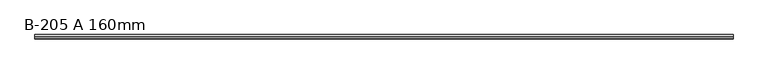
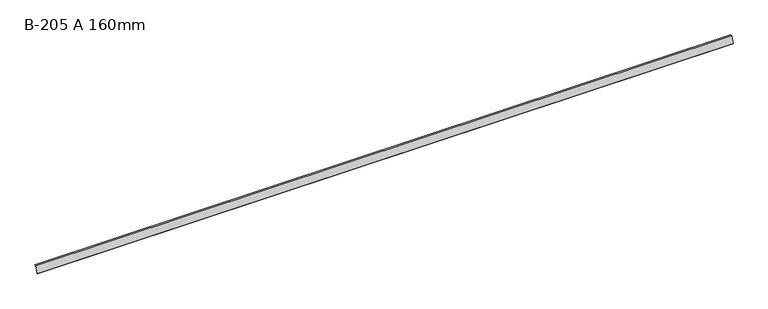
"""IFC4 building model written with IfcOpenShell, lengths in millimetres: proxy geometry, GROVIK_Flashing_Eaves : B-205 A 160mm."""

from ifc_helpers import new_model, si_unit, frame, origin, place, context, project, spatial, polyline, outline, extrude, source, transform, mapped, element, save


def b_205_a_160mm_67778573(model_context):
    return source(origin(), model_context, "Body", "SweptSolid", [
        extrude(outline(polyline([(-0.6918582, 0.9880759), (-57.9129574, -148.077984), (-48.2100002, -145.6587651), (-47.9680783, -146.6290608), (-59.5349563, -149.5130074), (-1.3837164, 1.9761518), (33.9599168, 2.5930772), (33.9773692, 1.5932295), (-0.6918582, 0.9880759)])), frame((0.0, 0.0, 0.0), z_axis=(1.0, 0.0, 0.0), x_axis=(0.0, 1.0, 0.0)), (0.0, 0.0, 1.0), 15500.0),
    ])


if __name__ == "__main__":
    model = new_model("IFC4")
    model_context = context("Model", 3, world=origin())
    ifc_project = project(units=[si_unit("LENGTHUNIT", "METRE", prefix="MILLI")], contexts=[model_context])
    site = spatial("IfcSite", under=ifc_project)
    building = spatial("IfcBuilding", under=site)
    placement = place(None, origin())
    b_205_a_160mm_shape = b_205_a_160mm_67778573(model_context)
    element("IfcBuildingElementProxy", 1, Name="GROVIK_Flashing_Eaves : B-205 A 160mm", ObjectType="GROVIK_Flashing_Eaves : B-205 A 160mm", at=placement, inside=building, context=model_context, shape_type="MappedRepresentation", body=[
        mapped(b_205_a_160mm_shape, transform((0.0, 0.0, 0.0), x_axis=(1.0, 0.0, 0.0), y_axis=(0.0, 1.0, 0.0), z_axis=(0.0, 0.0, 1.0))),
    ])
    save(model, "model.ifc")
